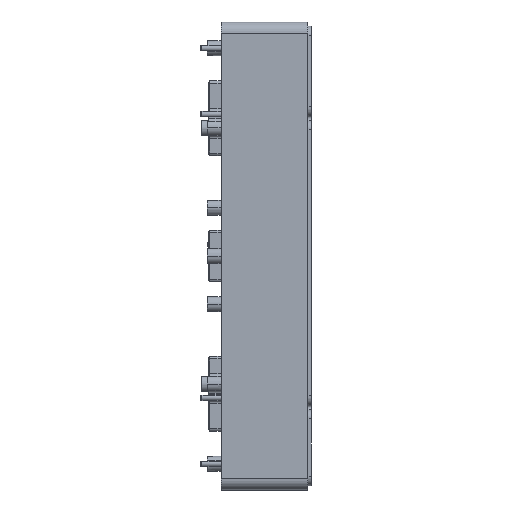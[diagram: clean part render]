
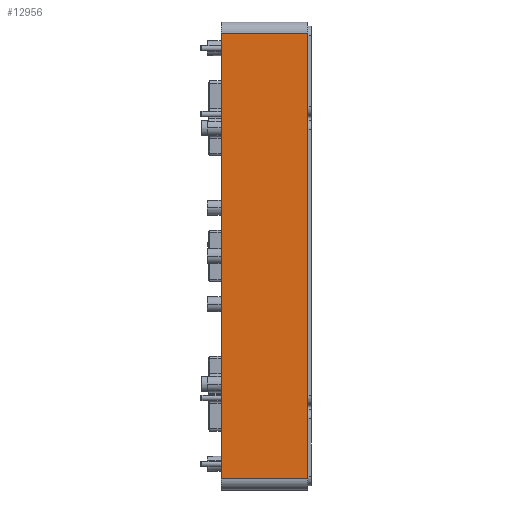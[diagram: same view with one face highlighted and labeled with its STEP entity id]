
A CAD part, left-side view. The second image highlights one B-rep face of the part: STEP entity #12956.
In plain terms, the highlighted planar face has unit normal (-1, 0, 0).
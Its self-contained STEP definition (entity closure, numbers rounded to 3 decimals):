
#2022=DIRECTION('',(0.,0.,1.));
#2023=VECTOR('',#2022,162.);
#2024=CARTESIAN_POINT('',(-85.,0.,-81.));
#2025=LINE('',#2024,#2023);
#3037=DIRECTION('',(0.,0.,-1.));
#3038=VECTOR('',#3037,162.);
#3039=CARTESIAN_POINT('',(-85.,-31.5,81.));
#3040=LINE('',#3039,#3038);
#3041=DIRECTION('',(0.,-1.,0.));
#3042=VECTOR('',#3041,31.5);
#3043=CARTESIAN_POINT('',(-85.,0.,-81.));
#3044=LINE('',#3043,#3042);
#3045=DIRECTION('',(0.,-1.,0.));
#3046=VECTOR('',#3045,31.5);
#3047=CARTESIAN_POINT('',(-85.,0.,81.));
#3048=LINE('',#3047,#3046);
#7637=CARTESIAN_POINT('',(-85.,0.,81.));
#7639=VERTEX_POINT('',#7637);
#7642=CARTESIAN_POINT('',(-85.,0.,-81.));
#7644=VERTEX_POINT('',#7642);
#9185=CARTESIAN_POINT('',(-85.,-31.5,81.));
#9186=CARTESIAN_POINT('',(-85.,-31.5,-81.));
#9187=VERTEX_POINT('',#9185);
#9188=VERTEX_POINT('',#9186);
#12944=CARTESIAN_POINT('',(-85.,-34.5,-85.));
#12945=DIRECTION('',(-1.,0.,0.));
#12946=DIRECTION('',(0.,0.,1.));
#12947=AXIS2_PLACEMENT_3D('',#12944,#12945,#12946);
#12948=PLANE('',#12947);
#12949=ORIENTED_EDGE('',*,*,#10426,.T.);
#12951=ORIENTED_EDGE('',*,*,#12950,.F.);
#12952=ORIENTED_EDGE('',*,*,#12207,.T.);
#12953=ORIENTED_EDGE('',*,*,#12936,.T.);
#12954=EDGE_LOOP('',(#12949,#12951,#12952,#12953));
#12955=FACE_OUTER_BOUND('',#12954,.F.);
#12956=ADVANCED_FACE('',(#12955),#12948,.T.);
#10426=EDGE_CURVE('',#9187,#9188,#3040,.T.);
#12207=EDGE_CURVE('',#7644,#7639,#2025,.T.);
#12936=EDGE_CURVE('',#7639,#9187,#3048,.T.);
#12950=EDGE_CURVE('',#7644,#9188,#3044,.T.);
